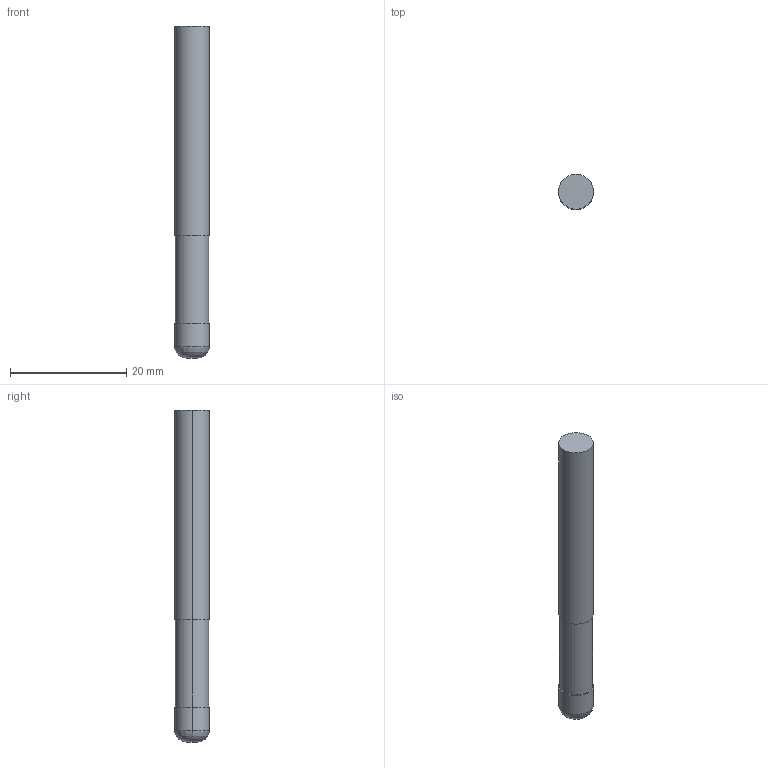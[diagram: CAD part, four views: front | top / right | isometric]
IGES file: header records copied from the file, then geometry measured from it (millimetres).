
Start section: 3D InterOp IGES (v. 2020 1.0.1), Spatial Corp. Copyright (c) 1999-2017.
Global section: file name: WZF17416_6_2.igs; native system: Spatial Corp.; preprocessor: 3D InterOp GENERIC/IGES 3.0; author: Noname; organization: Noname; date: 20201007.092603; units: metre
Bounding box: 6 x 6 x 57 mm (x, y, z)
Surface area: 1104.4 mm2 (no closed solid volume)
Topology: 0 solids, 0 shells, 12 faces, 44 edges, 44 vertices
Faces by surface type: revolution 8, extrusion 4
